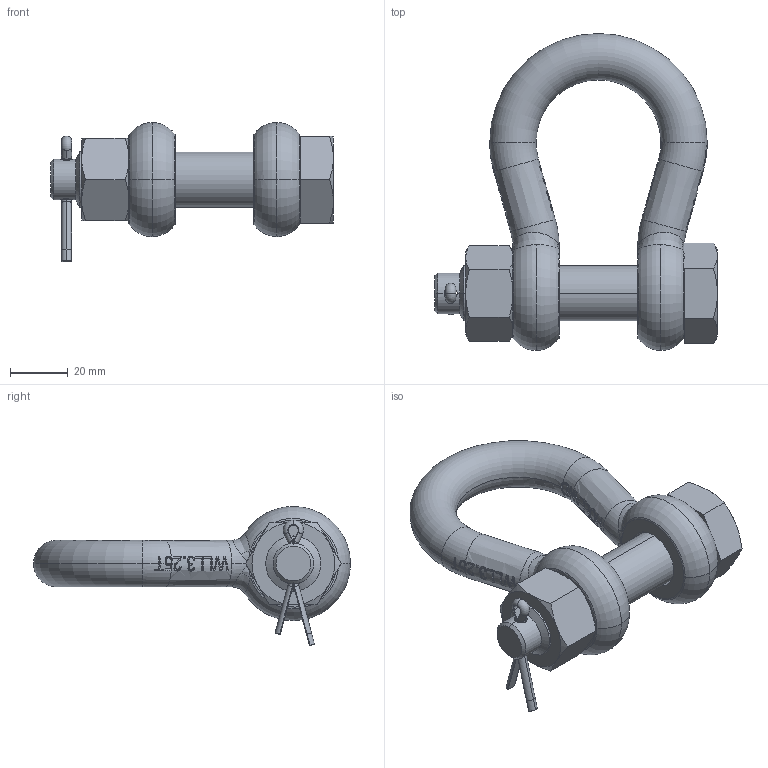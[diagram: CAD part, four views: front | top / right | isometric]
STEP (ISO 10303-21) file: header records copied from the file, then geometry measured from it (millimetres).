
FILE_DESCRIPTION(('STEP AP203'),'1');
FILE_NAME('gpghmb16.stp','2022-04-24T03:28:06',('TraceParts'),('TraceParts S.A.'),'Spatial InterOp 3D',' ',' ');
FILE_SCHEMA(('CONFIG_CONTROL_DESIGN'));
Length unit declared in the file: millimetre
Products named in the file (1): 1
Bounding box: 97.5 x 109.3 x 47.97 mm (x, y, z)
Volume: 96691.9 mm3; surface area: 27897 mm2
Topology: 4 solids, 4 shells, 590 faces, 1585 edges, 1002 vertices
Faces by surface type: plane 246, bspline 163, cylinder 93, torus 58, cone 30
Entity records: 27609 total; most frequent: CARTESIAN_POINT 14350, ORIENTED_EDGE 3106, DIRECTION 2178, EDGE_CURVE 1553, VERTEX_POINT 993, AXIS2_PLACEMENT_3D 742, LINE 694, VECTOR 694
